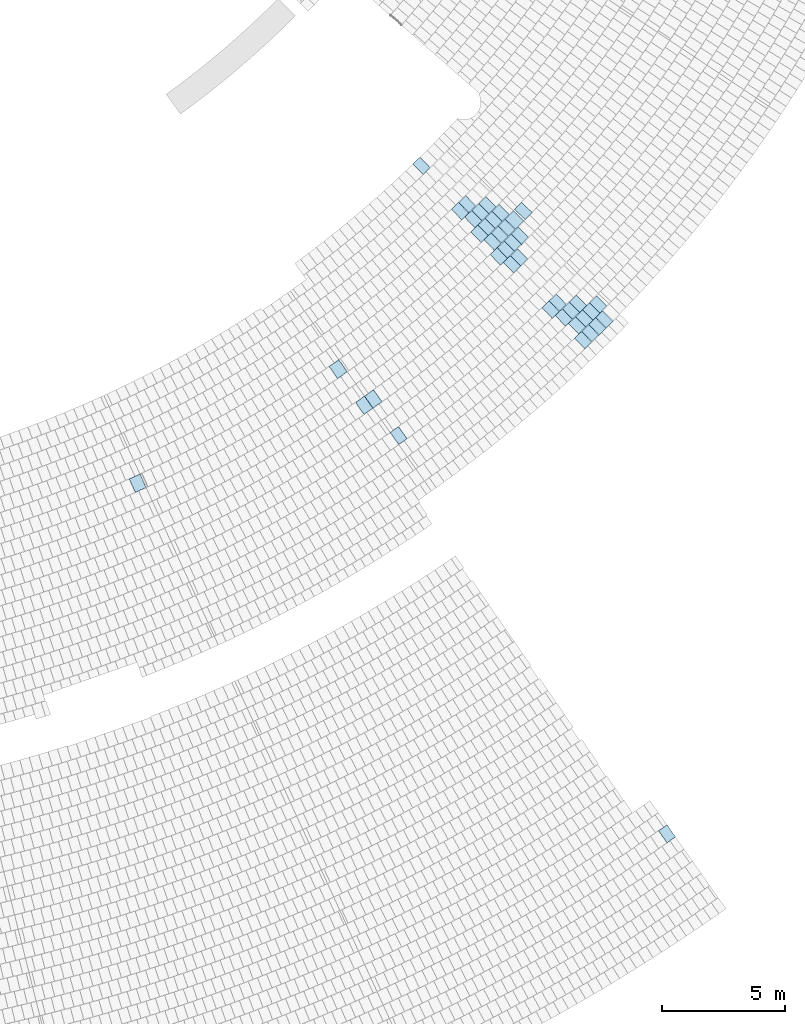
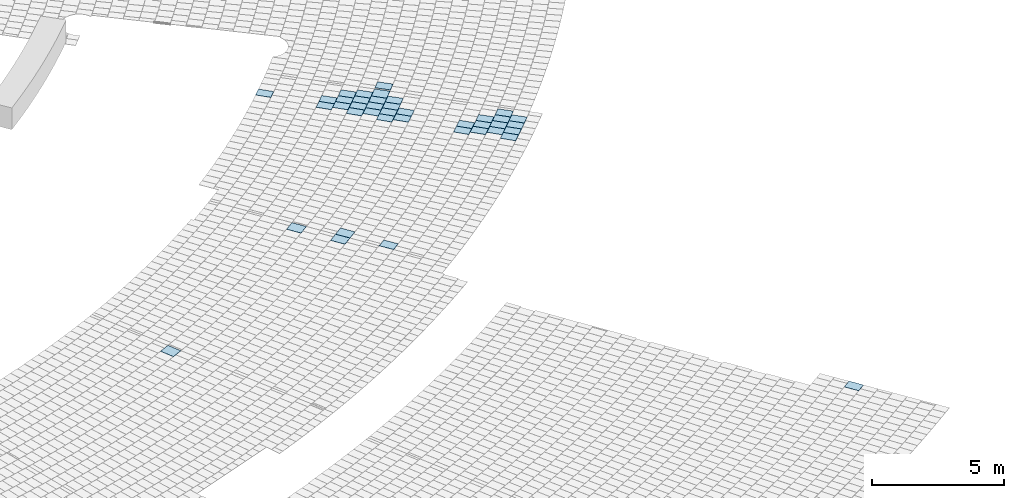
# One storey, part 10 of 438: 40 slabs.
"""IFC2X3 building model written with IfcOpenShell, lengths in millimetres."""

from ifc_helpers import new_model, entity, si_unit, converted_unit, derived_unit, direction, frame, frame_2d, origin, origin_2d_with_axis, place, context, subcontext, project, spatial, polyline, rectangle, outline, extrude, material, layer, layer_set, layer_usage, type_object, element, save


model = new_model("IFC2X3")

# Units and contexts
model_context = context("Model", 3, precision=0.01, world=origin(), true_north=direction((6.123031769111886e-17, 1.0)))
body_context = subcontext(model_context, "Body", "Model", "MODEL_VIEW")
ifc_project = project(units=[si_unit("LENGTHUNIT", "METRE", prefix="MILLI"), si_unit("AREAUNIT", "SQUARE_METRE"), si_unit("VOLUMEUNIT", "CUBIC_METRE"), converted_unit("PLANEANGLEUNIT", "DEGREE", entity("IfcRatioMeasure", 0.017453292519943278), si_unit("PLANEANGLEUNIT", "RADIAN"), dimensions=[0, 0, 0, 0, 0, 0, 0]), si_unit("MASSUNIT", "GRAM", prefix="KILO"), derived_unit("MASSDENSITYUNIT", [(si_unit("MASSUNIT", "GRAM", prefix="KILO"), 1), (si_unit("LENGTHUNIT", "METRE"), -3)]), derived_unit("MOMENTOFINERTIAUNIT", [(si_unit("LENGTHUNIT", "METRE"), 4)]), si_unit("TIMEUNIT", "SECOND"), si_unit("FREQUENCYUNIT", "HERTZ"), si_unit("THERMODYNAMICTEMPERATUREUNIT", "DEGREE_CELSIUS"), derived_unit("THERMALTRANSMITTANCEUNIT", [(si_unit("MASSUNIT", "GRAM", prefix="KILO"), 1), (si_unit("THERMODYNAMICTEMPERATUREUNIT", "KELVIN"), -1), (si_unit("TIMEUNIT", "SECOND"), -3)]), derived_unit("THERMALCONDUCTANCEUNIT", [(si_unit("MASSUNIT", "GRAM", prefix="KILO"), 1), (si_unit("LENGTHUNIT", "METRE"), 1), (si_unit("THERMODYNAMICTEMPERATUREUNIT", "KELVIN"), -1), (si_unit("TIMEUNIT", "SECOND"), -3)]), derived_unit("VOLUMETRICFLOWRATEUNIT", [(si_unit("LENGTHUNIT", "METRE"), 3), (si_unit("TIMEUNIT", "SECOND"), -1)]), derived_unit("MASSFLOWRATEUNIT", [(si_unit("MASSUNIT", "GRAM", prefix="KILO"), 1), (si_unit("TIMEUNIT", "SECOND"), -1)]), derived_unit("ROTATIONALFREQUENCYUNIT", [(si_unit("TIMEUNIT", "SECOND"), -1)]), si_unit("ELECTRICCURRENTUNIT", "AMPERE"), si_unit("ELECTRICVOLTAGEUNIT", "VOLT"), si_unit("POWERUNIT", "WATT"), converted_unit("FORCEUNIT", "KIP", entity("IfcRatioMeasure", 2.088543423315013e-05), si_unit("FORCEUNIT", "NEWTON"), dimensions=[1, 1, -2, 0, 0, 0, 0]), si_unit("ILLUMINANCEUNIT", "LUX"), si_unit("LUMINOUSFLUXUNIT", "LUMEN"), si_unit("LUMINOUSINTENSITYUNIT", "CANDELA"), derived_unit("USERDEFINED", [(si_unit("MASSUNIT", "GRAM", prefix="KILO"), -1), (si_unit("LENGTHUNIT", "METRE"), -2), (si_unit("TIMEUNIT", "SECOND"), 3), (si_unit("LUMINOUSFLUXUNIT", "LUMEN"), 1)]), derived_unit("USERDEFINED", [(si_unit("MASSUNIT", "GRAM", prefix="KILO"), 1), (si_unit("LENGTHUNIT", "METRE"), 3), (si_unit("TIMEUNIT", "SECOND"), -3), (si_unit("ELECTRICCURRENTUNIT", "AMPERE"), -2)]), derived_unit("USERDEFINED", [(si_unit("LENGTHUNIT", "METRE"), 2), (si_unit("TIMEUNIT", "SECOND"), -2)]), derived_unit("SOUNDPOWERUNIT", [(si_unit("MASSUNIT", "GRAM", prefix="KILO"), 1), (si_unit("LENGTHUNIT", "METRE"), 2), (si_unit("TIMEUNIT", "SECOND"), -3)]), derived_unit("SOUNDPRESSUREUNIT", [(si_unit("MASSUNIT", "GRAM", prefix="KILO"), 1), (si_unit("LENGTHUNIT", "METRE"), -1), (si_unit("TIMEUNIT", "SECOND"), -2)]), derived_unit("LINEARVELOCITYUNIT", [(si_unit("LENGTHUNIT", "METRE"), 1), (si_unit("TIMEUNIT", "SECOND"), -1)]), si_unit("PRESSUREUNIT", "PASCAL"), derived_unit("USERDEFINED", [(si_unit("LENGTHUNIT", "METRE"), -2), (si_unit("MASSUNIT", "GRAM", prefix="KILO"), 1), (si_unit("TIMEUNIT", "SECOND"), -2)]), derived_unit("LINEARFORCEUNIT", [(si_unit("MASSUNIT", "GRAM", prefix="KILO"), 1), (si_unit("LENGTHUNIT", "METRE"), 1), (si_unit("TIMEUNIT", "SECOND"), -2), (si_unit("LENGTHUNIT", "METRE"), -1)]), derived_unit("PLANARFORCEUNIT", [(si_unit("MASSUNIT", "GRAM", prefix="KILO"), 1), (si_unit("LENGTHUNIT", "METRE"), 1), (si_unit("TIMEUNIT", "SECOND"), -2), (si_unit("LENGTHUNIT", "METRE"), -2)]), derived_unit("SPECIFICHEATCAPACITYUNIT", [(si_unit("LENGTHUNIT", "METRE"), 2), (si_unit("TIMEUNIT", "SECOND"), -2), (si_unit("THERMODYNAMICTEMPERATUREUNIT", "KELVIN"), -1)]), derived_unit("VAPORPERMEABILITYUNIT", [(si_unit("TIMEUNIT", "SECOND"), 1), (si_unit("LENGTHUNIT", "METRE"), -1)]), derived_unit("DYNAMICVISCOSITYUNIT", [(si_unit("MASSUNIT", "GRAM", prefix="KILO"), 1), (si_unit("LENGTHUNIT", "METRE"), -1), (si_unit("TIMEUNIT", "SECOND"), -1)]), derived_unit("THERMALEXPANSIONCOEFFICIENTUNIT", [(si_unit("THERMODYNAMICTEMPERATUREUNIT", "KELVIN"), -1)])], contexts=[model_context])

# Site, building, storey
site_placement = place(None, frame((0.0, 0.0, 0.0), z_axis=(0.0, 0.0, 1.0), x_axis=(0.8191520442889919, 0.5735764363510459, 0.0)))
site = spatial("IfcSite", under=ifc_project, at=site_placement, Name="Default", CompositionType="ELEMENT")
building_placement = place(site_placement, origin())
building = spatial("IfcBuilding", under=site, at=building_placement, CompositionType="ELEMENT")
storey_placement = place(building_placement, origin())
storey = spatial("IfcBuildingStorey", under=building, at=storey_placement, Name="PLAN", CompositionType="ELEMENT", Elevation=0.0)

# Slabs
ifc_material = material(Name="Paint-01")
ifc_layer = layer(ifc_material, 20.00000000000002)
ifc_layer_set = layer_set([ifc_layer], Name="Floor:Slab-179:1000")
ifc_layer_usage = layer_usage(ifc_layer_set, "AXIS3", "POSITIVE", 0.0)
slab_type = type_object("IfcSlabType", Name="Floor:Slab-179:1000", PredefinedType="FLOOR", material=ifc_layer_set)
slab_1_placement = place(storey_placement, origin())
element("IfcSlab", 1, at=slab_1_placement, inside=storey, type_object=slab_type, material=ifc_layer_usage, Name="Floor:Slab-179:1000", ObjectType="Floor:Slab-179:1000", PredefinedType="FLOOR", context=body_context, shape_type="SweptSolid", body=[
    extrude(outline(polyline([(-299.9999976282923, -200.00000294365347), (300.0, -200.00000294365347), (299.9999976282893, 200.00000294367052), (-300.0, 200.0000029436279), (-299.9999976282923, -200.00000294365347)])), frame((-30339.04618932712, -123436.71686489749, 520.0), z_axis=(0.0, 0.0, -1.0), x_axis=(0.1770675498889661, -0.9841987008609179, 0.0)), (0.0, 0.0, 1.0), 19.99999999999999),
])
slab_2_placement = place(storey_placement, origin())
element("IfcSlab", 2, at=slab_2_placement, inside=storey, type_object=slab_type, material=ifc_layer_usage, Name="Floor:Slab-179:1000", ObjectType="Floor:Slab-179:1000", PredefinedType="FLOOR", context=body_context, shape_type="SweptSolid", body=[
    extrude(outline(polyline([(-299.99999762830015, -200.00000294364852), (300.0, -200.00000294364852), (299.999997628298, 200.00000294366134), (-300.0, 200.00000294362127), (-299.99999762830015, -200.00000294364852)])), frame((-30735.080571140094, -123506.51038426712, 520.0), z_axis=(0.0, 0.0, -1.0), x_axis=(0.17004317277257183, -0.9854366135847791, 0.0)), (0.0, 0.0, 1.0), 19.99999999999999),
])
slab_3_placement = place(storey_placement, origin())
element("IfcSlab", 3, at=slab_3_placement, inside=storey, type_object=slab_type, material=ifc_layer_usage, Name="Floor:Slab-179:1000", ObjectType="Floor:Slab-179:1000", PredefinedType="FLOOR", context=body_context, shape_type="SweptSolid", body=[
    extrude(outline(polyline([(-299.999997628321, -200.0000029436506), (300.0, -200.00000294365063), (299.99999762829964, 200.0000029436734), (-300.0, 200.00000294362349), (-299.999997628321, -200.0000029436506)])), frame((-31131.60268661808, -123573.47738256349, 520.0), z_axis=(0.0, 0.0, -1.0), x_axis=(0.16301014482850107, -0.9866243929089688, 0.0)), (0.0, 0.0, 1.0), 20.000000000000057),
])
slab_4_placement = place(storey_placement, origin())
element("IfcSlab", 4, at=slab_4_placement, inside=storey, type_object=slab_type, material=ifc_layer_usage, Name="Floor:Slab-179:1000", ObjectType="Floor:Slab-179:1000", PredefinedType="FLOOR", context=body_context, shape_type="SweptSolid", body=[
    extrude(outline(polyline([(-299.999997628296, -200.00000294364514), (300.0, -200.00000294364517), (299.99999762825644, 200.00000294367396), (-300.0, 200.00000294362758), (-299.999997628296, -200.00000294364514)])), frame((-31528.592362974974, -123637.61445288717, 520.0), z_axis=(0.0, 0.0, -1.0), x_axis=(0.15596882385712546, -0.9877619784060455, 0.0)), (0.0, 0.0, 1.0), 20.000000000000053),
])
slab_5_placement = place(storey_placement, origin())
element("IfcSlab", 5, at=slab_5_placement, inside=storey, type_object=slab_type, material=ifc_layer_usage, Name="Floor:Slab-179:1000", ObjectType="Floor:Slab-179:1000", PredefinedType="FLOOR", context=body_context, shape_type="SweptSolid", body=[
    extrude(outline(polyline([(-299.9999976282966, -200.0000029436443), (300.0, -200.0000029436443), (299.9999976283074, 200.00000294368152), (-300.0, 200.00000294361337), (-299.9999976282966, -200.0000029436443)])), frame((-30199.264626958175, -122796.28171880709, 520.0), z_axis=(0.0, 0.0, -1.0), x_axis=(0.18149439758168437, -0.9833919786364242, 0.0)), (0.0, 0.0, 1.0), 20.000000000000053),
])
slab_6_placement = place(storey_placement, origin())
element("IfcSlab", 6, at=slab_6_placement, inside=storey, type_object=slab_type, material=ifc_layer_usage, Name="Floor:Slab-179:1000", ObjectType="Floor:Slab-179:1000", PredefinedType="FLOOR", context=body_context, shape_type="SweptSolid", body=[
    extrude(outline(polyline([(-299.9999976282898, -200.0000029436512), (300.0, -200.0000029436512), (299.999997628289, 200.00000294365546), (-300.0, 200.00000294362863), (-299.9999976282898, -200.0000029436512)])), frame((-30595.00663848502, -122867.84533604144, 520.0), z_axis=(0.0, 0.0, -1.0), x_axis=(0.17439906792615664, -0.9846750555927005, 0.0)), (0.0, 0.0, 1.0), 20.000000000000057),
])
slab_7_placement = place(storey_placement, origin())
element("IfcSlab", 7, at=slab_7_placement, inside=storey, type_object=slab_type, material=ifc_layer_usage, Name="Floor:Slab-179:1000", ObjectType="Floor:Slab-179:1000", PredefinedType="FLOOR", context=body_context, shape_type="SweptSolid", body=[
    extrude(outline(polyline([(-299.99999762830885, -200.0000029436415), (300.0, -200.00000294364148), (299.9999976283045, 200.00000294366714), (-300.0, 200.00000294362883), (-299.99999762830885, -200.0000029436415)])), frame((-30991.254362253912, -122936.55364999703, 520.0), z_axis=(0.0, 0.0, -1.0), x_axis=(0.16729467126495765, -0.9859069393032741, 0.0)), (0.0, 0.0, 1.0), 20.000000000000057),
])
slab_8_placement = place(storey_placement, origin())
element("IfcSlab", 8, at=slab_8_placement, inside=storey, type_object=slab_type, material=ifc_layer_usage, Name="Floor:Slab-179:1000", ObjectType="Floor:Slab-179:1000", PredefinedType="FLOOR", context=body_context, shape_type="SweptSolid", body=[
    extrude(outline(polyline([(-299.9999976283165, -200.00000294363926), (300.0, -200.00000294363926), (299.99999762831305, 200.0000029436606), (-300.0, 200.000002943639), (-299.9999976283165, -200.00000294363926)])), frame((-31387.98719735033, -123002.40308852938, 520.0), z_axis=(0.0, 0.0, -1.0), x_axis=(0.16018157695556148, -0.9870875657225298, 0.0)), (0.0, 0.0, 1.0), 20.000000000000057),
])
slab_9_placement = place(storey_placement, origin())
element("IfcSlab", 9, at=slab_9_placement, inside=storey, type_object=slab_type, material=ifc_layer_usage, Name="Floor:Slab-179:1000", ObjectType="Floor:Slab-179:1000", PredefinedType="FLOOR", context=body_context, shape_type="SweptSolid", body=[
    extrude(outline(polyline([(-300.0, -200.00000294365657), (299.9999976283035, -200.00000294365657), (300.0, 200.00000294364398), (-299.9999976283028, 200.0000029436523), (-300.0, -200.00000294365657)])), frame((-32852.65439595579, -114046.37027336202, 520.0), z_axis=(0.0, 0.0, -1.0), x_axis=(0.15994561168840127, -0.9871258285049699, 0.0)), (0.0, 0.0, 1.0), 20.000000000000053),
])
slab_10_placement = place(storey_placement, origin())
element("IfcSlab", 10, at=slab_10_placement, inside=storey, type_object=slab_type, material=ifc_layer_usage, Name="Floor:Slab-179:1000", ObjectType="Floor:Slab-179:1000", PredefinedType="FLOOR", context=body_context, shape_type="SweptSolid", body=[
    extrude(outline(polyline([(-299.99999762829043, -200.00000294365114), (300.0, -200.00000294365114), (299.99999762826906, 200.00000294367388), (-300.0, 200.00000294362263), (-299.99999762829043, -200.00000294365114)])), frame((-31851.08136809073, -118173.24313654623, 520.0), z_axis=(0.0, 0.0, -1.0), x_axis=(0.16631065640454, -0.9860734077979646, 0.0)), (0.0, 0.0, 1.0), 19.99999999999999),
])
slab_11_placement = place(storey_placement, origin())
element("IfcSlab", 11, at=slab_11_placement, inside=storey, type_object=slab_type, material=ifc_layer_usage, Name="Floor:Slab-179:1000", ObjectType="Floor:Slab-179:1000", PredefinedType="FLOOR", context=body_context, shape_type="SweptSolid", body=[
    extrude(outline(polyline([(-299.9999976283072, -200.00000294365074), (300.0, -200.0000029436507), (299.99999762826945, 200.00000294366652), (-300.0, 200.00000294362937), (-299.9999976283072, -200.00000294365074)])), frame((-31503.36668690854, -121795.23945652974, 520.0), z_axis=(0.0, 0.0, -1.0), x_axis=(0.16161913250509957, -0.9868532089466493, 0.0)), (0.0, 0.0, 1.0), 20.000000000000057),
])
slab_12_placement = place(storey_placement, origin())
element("IfcSlab", 12, at=slab_12_placement, inside=storey, type_object=slab_type, material=ifc_layer_usage, Name="Floor:Slab-179:1000", ObjectType="Floor:Slab-179:1000", PredefinedType="FLOOR", context=body_context, shape_type="SweptSolid", body=[
    extrude(outline(polyline([(-299.9999976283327, -200.00000294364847), (300.0, -200.00000294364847), (299.9999976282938, 200.00000294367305), (-300.0, 200.00000294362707), (-299.9999976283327, -200.00000294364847)])), frame((-31900.524462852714, -121858.7807387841, 520.0), z_axis=(0.0, 0.0, -1.0), x_axis=(0.1543405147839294, -0.9880177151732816, 0.0)), (0.0, 0.0, 1.0), 20.000000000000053),
])
slab_13_placement = place(storey_placement, origin())
element("IfcSlab", 13, at=slab_13_placement, inside=storey, type_object=slab_type, material=ifc_layer_usage, Name="Floor:Slab-179:1000", ObjectType="Floor:Slab-179:1000", PredefinedType="FLOOR", context=body_context, shape_type="SweptSolid", body=[
    extrude(outline(polyline([(-300.0, -207.04852597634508), (299.99999759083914, -207.04852597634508), (300.0, 207.04852597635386), (-299.9999975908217, 207.0485259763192), (-300.0, -207.04852597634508)])), frame((-39917.96909455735, -122511.09785647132, 520.0), z_axis=(0.0, 0.0, -1.0), x_axis=(0.0075358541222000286, -0.9999716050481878, 0.0)), (0.0, 0.0, 1.0), 19.99999999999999),
])
slab_14_placement = place(storey_placement, origin())
element("IfcSlab", 14, at=slab_14_placement, inside=storey, type_object=slab_type, material=ifc_layer_usage, Name="Floor:Slab-179:1000", ObjectType="Floor:Slab-179:1000", PredefinedType="FLOOR", context=body_context, shape_type="SweptSolid", body=[
    extrude(outline(polyline([(-300.0, -223.19635474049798), (299.999997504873, -223.196354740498), (300.0, 223.19635474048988), (-299.9999975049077, 223.1963547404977), (-300.0, -223.19635474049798)])), frame((-39908.113651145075, -120695.97457130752, 520.0), z_axis=(0.0, 0.0, -1.0), x_axis=(0.008288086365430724, -0.9999656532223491, 0.0)), (0.0, 0.0, 1.0), 20.000000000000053),
])
slab_15_placement = place(storey_placement, origin())
element("IfcSlab", 15, at=slab_15_placement, inside=storey, type_object=slab_type, material=ifc_layer_usage, Name="Floor:Slab-179:1000", ObjectType="Floor:Slab-179:1000", PredefinedType="FLOOR", context=body_context, shape_type="SweptSolid", body=[
    extrude(outline(polyline([(-299.99999762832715, -200.00000294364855), (300.0, -200.00000294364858), (299.99999762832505, 200.00000294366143), (-300.0, 200.00000294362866), (-299.99999762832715, -200.00000294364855)])), frame((-31735.176319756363, -119380.71102035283, 520.0), z_axis=(0.0, 0.0, -1.0), x_axis=(0.16467424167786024, -0.9863480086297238, 0.0)), (0.0, 0.0, 1.0), 20.000000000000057),
])
slab_16_placement = place(storey_placement, origin())
element("IfcSlab", 16, at=slab_16_placement, inside=storey, type_object=slab_type, material=ifc_layer_usage, Name="Floor:Slab-179:1000", ObjectType="Floor:Slab-179:1000", PredefinedType="FLOOR", context=body_context, shape_type="SweptSolid", body=[
    extrude(outline(polyline([(-299.9999976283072, -200.00000294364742), (300.0, -200.00000294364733), (299.9999976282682, 200.00000294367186), (-300.0, 200.00000294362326), (-299.9999976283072, -200.00000294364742)])), frame((-32132.24818558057, -119445.43010626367, 520.0), z_axis=(0.0, 0.0, -1.0), x_axis=(0.15705947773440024, -0.9875891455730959, 0.0)), (0.0, 0.0, 1.0), 20.000000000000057),
])
slab_17_placement = place(storey_placement, origin())
element("IfcSlab", 17, at=slab_17_placement, inside=storey, type_object=slab_type, material=ifc_layer_usage, Name="Floor:Slab-179:1000", ObjectType="Floor:Slab-179:1000", PredefinedType="FLOOR", context=body_context, shape_type="SweptSolid", body=[
    extrude(outline(polyline([(-299.99999762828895, -200.0000029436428), (300.0, -200.0000029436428), (299.9999976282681, 200.00000294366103), (-300.0, 200.00000294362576), (-299.99999762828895, -200.0000029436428)])), frame((-31198.538078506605, -118673.64215775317, 520.0), z_axis=(0.0, 0.0, -1.0), x_axis=(0.17701933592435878, -0.9842073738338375, 0.0)), (0.0, 0.0, 1.0), 19.99999999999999),
])
slab_18_placement = place(storey_placement, origin())
element("IfcSlab", 18, at=slab_18_placement, inside=storey, type_object=slab_type, material=ifc_layer_usage, Name="Floor:Slab-179:1000", ObjectType="Floor:Slab-179:1000", PredefinedType="FLOOR", context=body_context, shape_type="SweptSolid", body=[
    extrude(outline(polyline([(-299.99999762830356, -200.00000294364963), (300.0, -200.00000294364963), (299.99999762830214, 200.0000029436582), (-300.0, 200.0000029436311), (-299.99999762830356, -200.00000294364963)])), frame((-31991.589609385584, -118809.89795626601, 520.0), z_axis=(0.0, 0.0, -1.0), x_axis=(0.16163222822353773, -0.9868510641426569, 0.0)), (0.0, 0.0, 1.0), 19.999999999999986),
])
slab_19_placement = place(storey_placement, origin())
element("IfcSlab", 19, at=slab_19_placement, inside=storey, type_object=slab_type, material=ifc_layer_usage, Name="Floor:Slab-179:1000", ObjectType="Floor:Slab-179:1000", PredefinedType="FLOOR", context=body_context, shape_type="SweptSolid", body=[
    extrude(outline(polyline([(-299.99999762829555, -200.00000294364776), (300.0, -200.0000029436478), (299.99999762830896, 200.00000294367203), (-300.0, 200.0000029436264), (-299.99999762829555, -200.00000294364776)])), frame((-31594.797927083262, -118743.31777664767, 520.0), z_axis=(0.0, 0.0, -1.0), x_axis=(0.16933094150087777, -0.9855592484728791, 0.0)), (0.0, 0.0, 1.0), 19.99999999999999),
])
slab_20_placement = place(storey_placement, origin())
element("IfcSlab", 20, at=slab_20_placement, inside=storey, type_object=slab_type, material=ifc_layer_usage, Name="Floor:Slab-179:1000", ObjectType="Floor:Slab-179:1000", PredefinedType="FLOOR", context=body_context, shape_type="SweptSolid", body=[
    extrude(outline(polyline([(-299.99999762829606, -200.00000294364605), (300.0, -200.00000294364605), (299.9999976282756, 200.0000029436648), (-300.0, 200.00000294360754), (-299.99999762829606, -200.00000294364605)])), frame((-32388.88894533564, -118873.37863928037, 520.0), z_axis=(0.0, 0.0, -1.0), x_axis=(0.15392366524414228, -0.98808274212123, 0.0)), (0.0, 0.0, 1.0), 19.99999999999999),
])
slab_21_placement = place(storey_placement, origin())
element("IfcSlab", 21, at=slab_21_placement, inside=storey, type_object=slab_type, material=ifc_layer_usage, Name="Floor:Slab-179:1000", ObjectType="Floor:Slab-179:1000", PredefinedType="FLOOR", context=body_context, shape_type="SweptSolid", body=[
    extrude(outline(polyline([(-299.99999762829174, -200.00000294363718), (300.0, -200.00000294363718), (299.9999976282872, 200.00000294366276), (-300.0, 200.00000294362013), (-299.99999762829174, -200.00000294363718)])), frame((-31454.585604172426, -118104.75863931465, 520.0), z_axis=(0.0, 0.0, -1.0), x_axis=(0.1740950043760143, -0.9847288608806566, 0.0)), (0.0, 0.0, 1.0), 19.99999999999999),
])
slab_22_placement = place(storey_placement, origin())
element("IfcSlab", 22, at=slab_22_placement, inside=storey, type_object=slab_type, material=ifc_layer_usage, Name="Floor:Slab-179:1000", ObjectType="Floor:Slab-179:1000", PredefinedType="FLOOR", context=body_context, shape_type="SweptSolid", body=[
    extrude(outline(polyline([(-299.99999741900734, -239.3443465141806), (300.0, -239.3443465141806), (299.99999741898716, 239.34434651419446), (-300.0, 239.34434651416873), (-299.99999741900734, -239.3443465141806)])), frame((-31019.9550158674, -118025.98864434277, 520.0), z_axis=(0.0, 0.0, -1.0), x_axis=(0.18186848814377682, -0.9833228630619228, 0.0)), (0.0, 0.0, 1.0), 19.999999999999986),
])
slab_23_placement = place(storey_placement, origin())
element("IfcSlab", 23, at=slab_23_placement, inside=storey, type_object=slab_type, material=ifc_layer_usage, Name="Floor:Slab-179:1000", ObjectType="Floor:Slab-179:1000", PredefinedType="FLOOR", context=body_context, shape_type="SweptSolid", body=[
    extrude(outline(polyline([(-299.99999762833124, -200.00000294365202), (300.0, -200.00000294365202), (299.9999976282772, 200.00000294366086), (-300.0, 200.00000294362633), (-299.99999762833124, -200.00000294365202)])), frame((-32248.10575735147, -118238.5933584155, 520.0), z_axis=(0.0, 0.0, -1.0), x_axis=(0.1585159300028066, -0.9873564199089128, 0.0)), (0.0, 0.0, 1.0), 20.000000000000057),
])
slab_24_placement = place(storey_placement, origin())
element("IfcSlab", 24, at=slab_24_placement, inside=storey, type_object=slab_type, material=ifc_layer_usage, Name="Floor:Slab-179:1000", ObjectType="Floor:Slab-179:1000", PredefinedType="FLOOR", context=body_context, shape_type="SweptSolid", body=[
    extrude(outline(polyline([(-299.9999976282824, -200.00000294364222), (300.0, -200.00000294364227), (299.99999762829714, 200.00000294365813), (-300.0, 200.0000029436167), (-299.9999976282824, -200.00000294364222)])), frame((-31314.55123376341, -117464.99207577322, 520.0), z_axis=(0.0, 0.0, -1.0), x_axis=(0.17897006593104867, -0.9838545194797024, 0.0)), (0.0, 0.0, 1.0), 20.000000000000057),
])
slab_25_placement = place(storey_placement, origin())
element("IfcSlab", 25, at=slab_25_placement, inside=storey, type_object=slab_type, material=ifc_layer_usage, Name="Floor:Slab-179:1000", ObjectType="Floor:Slab-179:1000", PredefinedType="FLOOR", context=body_context, shape_type="SweptSolid", body=[
    extrude(outline(polyline([(-299.9999976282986, -200.0000029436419), (300.0, -200.00000294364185), (299.99999762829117, 200.00000294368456), (-300.0, 200.00000294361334), (-299.9999976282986, -200.0000029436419)])), frame((-31710.73444744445, -117535.42559119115, 520.0), z_axis=(0.0, 0.0, -1.0), x_axis=(0.1710983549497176, -0.9852539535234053, 0.0)), (0.0, 0.0, 1.0), 20.000000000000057),
])
slab_26_placement = place(storey_placement, origin())
element("IfcSlab", 26, at=slab_26_placement, inside=storey, type_object=slab_type, material=ifc_layer_usage, Name="Floor:Slab-179:1000", ObjectType="Floor:Slab-179:1000", PredefinedType="FLOOR", context=body_context, shape_type="SweptSolid", body=[
    extrude(outline(polyline([(-299.99999762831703, -200.00000294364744), (300.0, -200.00000294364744), (299.9999976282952, 200.00000294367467), (-300.0, 200.00000294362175), (-299.99999762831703, -200.00000294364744)])), frame((-32504.72689107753, -117666.77902518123, 520.0), z_axis=(0.0, 0.0, -1.0), x_axis=(0.155322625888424, -0.9878637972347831, 0.0)), (0.0, 0.0, 1.0), 19.99999999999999),
])
slab_27_placement = place(storey_placement, origin())
element("IfcSlab", 27, at=slab_27_placement, inside=storey, type_object=slab_type, material=ifc_layer_usage, Name="Floor:Slab-179:1000", ObjectType="Floor:Slab-179:1000", PredefinedType="FLOOR", context=body_context, shape_type="SweptSolid", body=[
    extrude(outline(polyline([(-299.9999976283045, -200.0000029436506), (300.0, -200.0000029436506), (299.9999976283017, 200.00000294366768), (-300.0, 200.00000294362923), (-299.9999976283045, -200.0000029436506)])), frame((-32107.468119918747, -117602.68934087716, 520.0), z_axis=(0.0, 0.0, -1.0), x_axis=(0.16321570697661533, -0.9865904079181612, 0.0)), (0.0, 0.0, 1.0), 20.000000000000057),
])
slab_28_placement = place(storey_placement, origin())
element("IfcSlab", 28, at=slab_28_placement, inside=storey, type_object=slab_type, material=ifc_layer_usage, Name="Floor:Slab-179:1000", ObjectType="Floor:Slab-179:1000", PredefinedType="FLOOR", context=body_context, shape_type="SweptSolid", body=[
    extrude(outline(polyline([(-299.9999976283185, -200.00000294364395), (300.0, -200.00000294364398), (299.99999762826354, 200.00000294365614), (-300.0, 200.00000294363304), (-299.9999976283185, -200.00000294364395)])), frame((-31570.56064220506, -116896.40336464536, 520.0), z_axis=(0.0, 0.0, -1.0), x_axis=(0.17599907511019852, -0.984390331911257, 0.0)), (0.0, 0.0, 1.0), 20.000000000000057),
])
slab_29_placement = place(storey_placement, origin())
element("IfcSlab", 29, at=slab_29_placement, inside=storey, type_object=slab_type, material=ifc_layer_usage, Name="Floor:Slab-179:1000", ObjectType="Floor:Slab-179:1000", PredefinedType="FLOOR", context=body_context, shape_type="SweptSolid", body=[
    extrude(outline(polyline([(-299.99999762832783, -200.00000294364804), (300.0, -200.00000294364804), (299.99999762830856, 200.00000294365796), (-300.0, 200.00000294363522), (-299.99999762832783, -200.00000294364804)])), frame((-31966.986915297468, -116965.62615472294, 520.0), z_axis=(0.0, 0.0, -1.0), x_axis=(0.1680267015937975, -0.9857824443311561, 0.0)), (0.0, 0.0, 1.0), 20.000000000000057),
])
slab_30_placement = place(storey_placement, origin())
element("IfcSlab", 30, at=slab_30_placement, inside=storey, type_object=slab_type, material=ifc_layer_usage, Name="Floor:Slab-179:1000", ObjectType="Floor:Slab-179:1000", PredefinedType="FLOOR", context=body_context, shape_type="SweptSolid", body=[
    extrude(outline(polyline([(-299.99999762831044, -200.00000294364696), (300.0, -200.00000294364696), (299.9999976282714, 200.00000294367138), (-300.0, 200.00000294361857), (-299.99999762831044, -200.00000294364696)])), frame((-32363.960421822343, -117031.63842465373, 520.0), z_axis=(0.0, 0.0, -1.0), x_axis=(0.1600433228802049, -0.9871099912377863, 0.0)), (0.0, 0.0, 1.0), 19.999999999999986),
])
slab_31_placement = place(storey_placement, origin())
element("IfcSlab", 31, at=slab_31_placement, inside=storey, type_object=slab_type, material=ifc_layer_usage, Name="Floor:Slab-179:1000", ObjectType="Floor:Slab-179:1000", PredefinedType="FLOOR", context=body_context, shape_type="SweptSolid", body=[
    extrude(outline(polyline([(-299.99999762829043, -200.00000294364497), (300.0, -200.00000294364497), (299.9999976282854, 200.00000294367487), (-300.0, 200.00000294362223), (-299.99999762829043, -200.00000294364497)])), frame((-32223.345356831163, -116395.3426225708, 520.0), z_axis=(0.0, 0.0, -1.0), x_axis=(0.16487722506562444, -0.9863140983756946, 0.0)), (0.0, 0.0, 1.0), 19.99999999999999),
])
slab_32_placement = place(storey_placement, origin())
element("IfcSlab", 32, at=slab_32_placement, inside=storey, type_object=slab_type, material=ifc_layer_usage, Name="Floor:Slab-179:1000", ObjectType="Floor:Slab-179:1000", PredefinedType="FLOOR", context=body_context, shape_type="SweptSolid", body=[
    extrude(outline(polyline([(-299.9999976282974, -200.00000294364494), (300.0, -200.00000294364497), (299.9999976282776, 200.00000294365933), (-300.0, 200.0000029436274), (-299.9999976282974, -200.00000294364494)])), frame((-32620.56054464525, -116460.07151906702, 520.0), z_axis=(0.0, 0.0, -1.0), x_axis=(0.15679059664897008, -0.9876318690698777, 0.0)), (0.0, 0.0, 1.0), 20.000000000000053),
])
slab_33_placement = place(storey_placement, origin())
element("IfcSlab", 33, at=slab_33_placement, inside=storey, type_object=slab_type, material=ifc_layer_usage, Name="Floor:Slab-179:1000", ObjectType="Floor:Slab-179:1000", PredefinedType="FLOOR", context=body_context, shape_type="SweptSolid", body=[
    extrude(outline(polyline([(-299.99999762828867, -200.0000029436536), (300.0, -200.00000294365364), (299.9999976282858, 200.0000029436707), (-300.0, 200.00000294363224), (-299.99999762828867, -200.0000029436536)])), frame((-31247.001024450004, -122366.07638105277, 520.0), z_axis=(0.0, 0.0, -1.0), x_axis=(0.16449363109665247, -0.9863781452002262, 0.0)), (0.0, 0.0, 1.0), 20.000000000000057),
])
slab_34_placement = place(storey_placement, origin())
element("IfcSlab", 34, at=slab_34_placement, inside=storey, type_object=slab_type, material=ifc_layer_usage, Name="Floor:Slab-179:1000", ObjectType="Floor:Slab-179:1000", PredefinedType="FLOOR", context=body_context, shape_type="SweptSolid", body=[
    extrude(outline(polyline([(-299.9999976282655, -200.00000294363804), (300.0, -200.000002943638), (299.9999976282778, 200.0000029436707), (-300.0, 200.00000294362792), (-299.9999976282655, -200.00000294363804)])), frame((-31643.945352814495, -122430.78672618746, 520.0), z_axis=(0.0, 0.0, -1.0), x_axis=(0.1572987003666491, -0.9875510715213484, 0.0)), (0.0, 0.0, 1.0), 20.000000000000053),
])
slab_35_placement = place(storey_placement, origin())
element("IfcSlab", 35, at=slab_35_placement, inside=storey, type_object=slab_type, material=ifc_layer_usage, Name="Floor:Slab-179:1000", ObjectType="Floor:Slab-179:1000", PredefinedType="FLOOR", context=body_context, shape_type="SweptSolid", body=[
    extrude(outline(polyline([(-299.99999762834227, -200.0000029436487), (300.0, -200.0000029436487), (299.99999762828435, 200.00000294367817), (-300.0, 200.00000294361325), (-299.99999762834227, -200.0000029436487)])), frame((-30850.5389728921, -122298.47408624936, 520.0), z_axis=(0.0, 0.0, -1.0), x_axis=(0.17167982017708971, -0.9851527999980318, 0.0)), (0.0, 0.0, 1.0), 20.000000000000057),
])
slab_36_placement = place(storey_placement, origin())
element("IfcSlab", 36, at=slab_36_placement, inside=storey, type_object=slab_type, material=ifc_layer_usage, Name="Floor:Slab-179:1000", ObjectType="Floor:Slab-179:1000", PredefinedType="FLOOR", context=body_context, shape_type="SweptSolid", body=[
    extrude(rectangle(XDim=599.9988882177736, YDim=478.6878081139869, at=frame_2d((-8.668621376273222e-12, 0.0), x_axis=(1.0, 0.0))), frame((-40380.13214736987, -118882.11538712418, 520.0), z_axis=(0.0, 0.0, -1.0), x_axis=(0.0, 1.0, 0.0)), (0.0, 0.0, 1.0), 20.000000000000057),
])
slab_37_placement = place(storey_placement, origin())
element("IfcSlab", 37, at=slab_37_placement, inside=storey, type_object=slab_type, material=ifc_layer_usage, Name="Floor:Slab-179:1000", ObjectType="Floor:Slab-179:1000", PredefinedType="FLOOR", context=body_context, shape_type="SweptSolid", body=[
    extrude(rectangle(XDim=599.9996233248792, YDim=446.3924311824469, at=frame_2d((8.668621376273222e-12, -4.334310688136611e-12), x_axis=(1.0, 0.0))), frame((-40357.48562761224, -120697.33789691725, 520.0), z_axis=(0.0, 0.0, -1.0), x_axis=(0.0, 1.0, 0.0)), (0.0, 0.0, 1.0), 20.000000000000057),
])
slab_38_placement = place(storey_placement, origin())
element("IfcSlab", 38, at=slab_38_placement, inside=storey, type_object=slab_type, material=ifc_layer_usage, Name="Floor:Slab-179:1000", ObjectType="Floor:Slab-179:1000", PredefinedType="FLOOR", context=body_context, shape_type="SweptSolid", body=[
    extrude(outline(polyline([(-300.0, -200.0000029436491), (299.999997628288, -200.00000294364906), (300.0, 200.00000294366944), (-299.9999976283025, 200.00000294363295), (-300.0, -200.0000029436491)])), frame((-30508.130485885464, -117928.18974292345, 520.0), z_axis=(0.0, 0.0, -1.0), x_axis=(0.19267663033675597, -0.981262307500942, 0.0)), (0.0, 0.0, 1.0), 19.999999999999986),
])
slab_39_placement = place(storey_placement, origin())
element("IfcSlab", 39, at=slab_39_placement, inside=storey, type_object=slab_type, material=ifc_layer_usage, Name="Floor:Slab-179:1000", ObjectType="Floor:Slab-179:1000", PredefinedType="FLOOR", context=body_context, shape_type="SweptSolid", body=[
    extrude(outline(polyline([(-299.9999974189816, -239.34434651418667), (300.0, -239.3443465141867), (299.9999974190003, 239.344346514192), (-300.0, 239.34434651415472), (-299.9999974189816, -239.34434651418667)])), frame((-49738.98960115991, -118004.54406921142, 520.0), z_axis=(0.0, 0.0, -1.0), x_axis=(-0.18563925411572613, -0.9826179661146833, 0.0)), (0.0, 0.0, 1.0), 20.000000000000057),
])
slab_40_placement = place(storey_placement, origin())
element("IfcSlab", 40, at=slab_40_placement, inside=storey, type_object=slab_type, material=ifc_layer_usage, Name="Floor:Slab-179:1000", ObjectType="Floor:Slab-179:1000", PredefinedType="FLOOR", context=body_context, shape_type="SweptSolid", body=[
    extrude(rectangle(XDim=599.9998963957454, YDim=420.96869124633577, at=origin_2d_with_axis()), frame((-40268.24879093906, -142067.6988450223, 20.0), z_axis=(0.0, 0.0, -1.0), x_axis=(0.0, 1.0, 0.0)), (0.0, 0.0, 1.0), 20.00000000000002),
])

save(model, "model.ifc")
